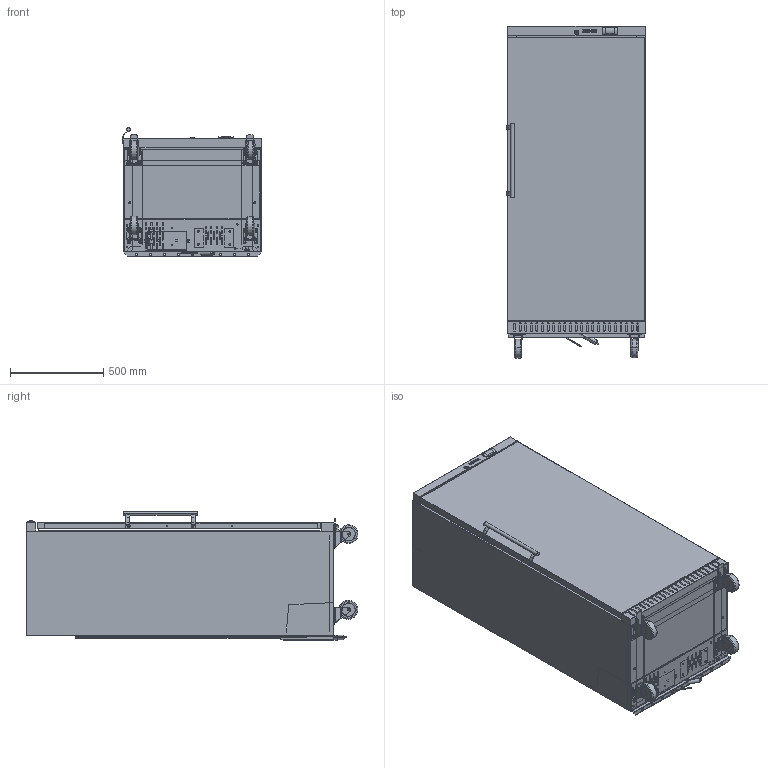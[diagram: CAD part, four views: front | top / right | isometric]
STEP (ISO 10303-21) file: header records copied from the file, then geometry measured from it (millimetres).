
FILE_DESCRIPTION (( 'STEP AP214' ), '1' );
FILE_NAME ('pres-CAPP400L.STEP', '2024-12-12T07:54:52', ( '' ), ( '' ), 'SwSTEP 2.0', 'SolidWorks 2025', '' );
FILE_SCHEMA (( 'AUTOMOTIVE_DESIGN' ));
Length unit declared in the file: millimetre
Products named in the file (5): Base-logo_armoire-positive; Logo-casselin-armoire-positive; pres-CAPP400L; LOGO-CASSELIN-ARMOIRE-POSITIVE; travail-pres-armoire-ss-etiquette-corps-spl
Assembly tree (4 placements, depth 3):
  pres-CAPP400L
    travail-pres-armoire-ss-etiquette-corps-spl
    Logo-casselin-armoire-positive
      Base-logo_armoire-positive
      LOGO-CASSELIN-ARMOIRE-POSITIVE
Bounding box: 744 x 1778.26 x 689.66 mm (x, y, z)
Surface area: 12197429.3 mm2
Topology: 11 solids, 186 shells, 1663 faces, 7897 edges, 6011 vertices
Faces by surface type: plane 797, cylinder 747, torus 76, bspline 37, cone 6
Entity records: 89905 total; most frequent: CARTESIAN_POINT 22289, DIRECTION 14305, ORIENTED_EDGE 11179, EDGE_CURVE 7895, VERTEX_POINT 6011, AXIS2_PLACEMENT_3D 4998, VECTOR 4309, LINE 4309
